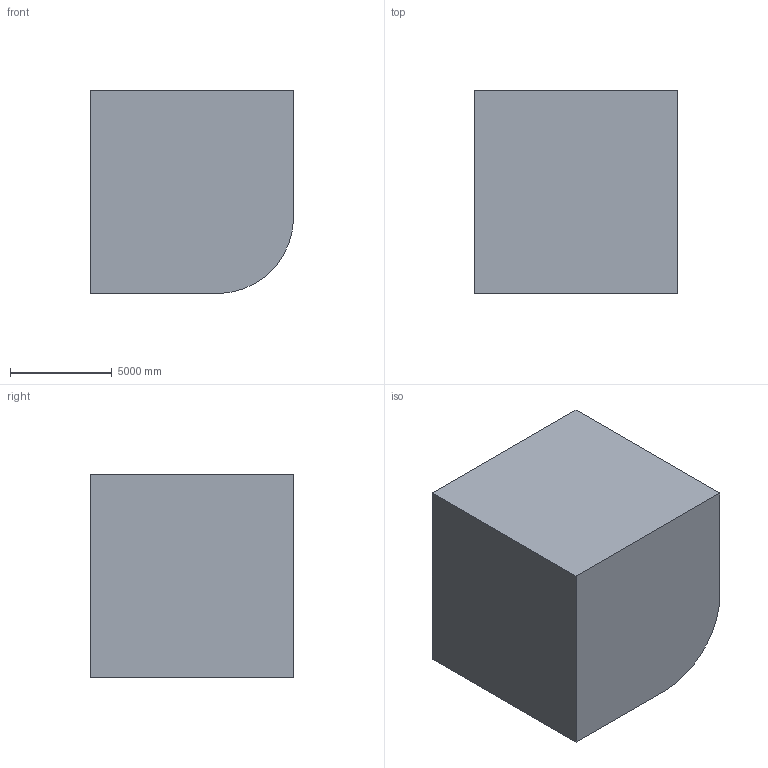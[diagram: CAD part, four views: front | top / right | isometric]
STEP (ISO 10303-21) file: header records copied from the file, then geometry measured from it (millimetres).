
FILE_DESCRIPTION (( 'STEP AP203' ), '1' );
FILE_NAME ('227.STEP', '2022-07-28T13:58:10', ( 'user' ), ( '' ), 'SwSTEP 2.0', 'SolidWorks 2021', '' );
FILE_SCHEMA (( 'CONFIG_CONTROL_DESIGN' ));
Length unit declared in the file: centimetre
Products named in the file (1): 227
Bounding box: 10000 x 10000 x 10000 mm (x, y, z)
Volume: 887621606626.3 mm3; surface area: 655364812.4 mm2
Topology: 1 solids, 1 shells, 16 faces, 39 edges, 26 vertices
Faces by surface type: plane 14, cylinder 2
Entity records: 544 total; most frequent: CARTESIAN_POINT 82, ORIENTED_EDGE 78, DIRECTION 77, EDGE_CURVE 39, LINE 35, VECTOR 35, VERTEX_POINT 26, AXIS2_PLACEMENT_3D 21
